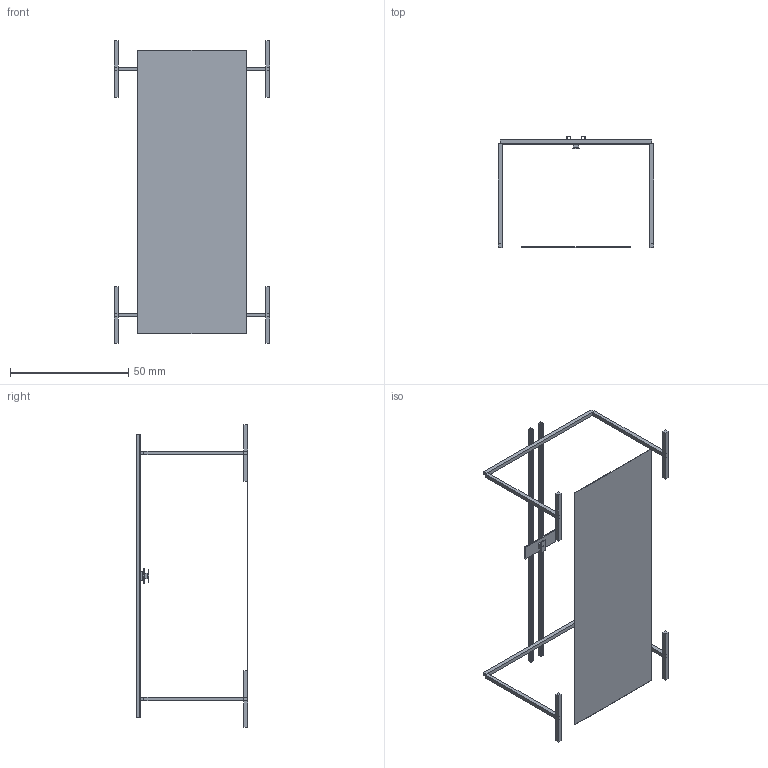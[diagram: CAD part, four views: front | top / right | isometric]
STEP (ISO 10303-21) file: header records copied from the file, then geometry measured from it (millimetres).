
FILE_DESCRIPTION(('Open CASCADE Model'),'2;1');
FILE_NAME('Open CASCADE Shape Model','2026-08-07T19:22:53',('Author'),( 'Open CASCADE'),'Open CASCADE STEP processor 7.9','Open CASCADE 7.9' ,'Unknown');
FILE_SCHEMA(('AUTOMOTIVE_DESIGN { 1 0 10303 214 1 1 1 1 }'));
Length unit declared in the file: millimetre
Products named in the file (24): 62def2d8-9295-11f1-bbdb-02fc00000001; canvas; rail_L; rail_R; beam_8; leg_-32_8; foot_-32_8; leg_32_8; foot_32_8; beam_112; leg_-32_112; foot_-32_112; leg_32_112; foot_32_112; trolley_L; wheel_L_58; wheel_L_61; trolley_R; wheel_R_58; wheel_R_61; crossplate; cam_bracket; phone; lens
Assembly tree (23 placements, depth 2):
  62def2d8-9295-11f1-bbdb-02fc00000001
    canvas
    rail_L
    rail_R
    beam_8
    leg_-32_8
    foot_-32_8
    leg_32_8
    foot_32_8
    beam_112
    leg_-32_112
    foot_-32_112
    leg_32_112
    foot_32_112
    trolley_L
    wheel_L_58
    wheel_L_61
    trolley_R
    wheel_R_58
    wheel_R_61
    crossplate
    cam_bracket
    phone
    lens
Bounding box: 65.62 x 47.12 x 128 mm (x, y, z)
Volume: 2395.9 mm3; surface area: 16814 mm2
Topology: 23 solids, 23 shells, 147 faces, 303 edges, 202 vertices
Faces by surface type: plane 142, cylinder 5
Full cylindrical faces by diameter (mm): 0.44 x1, 0.68 x4
Entity records: 8316 total; most frequent: CARTESIAN_POINT 1282, DIRECTION 1261, LINE 889, VECTOR 889, ORIENTED_EDGE 606, PCURVE 606, DEFINITIONAL_REPRESENTATION 606, EDGE_CURVE 303
